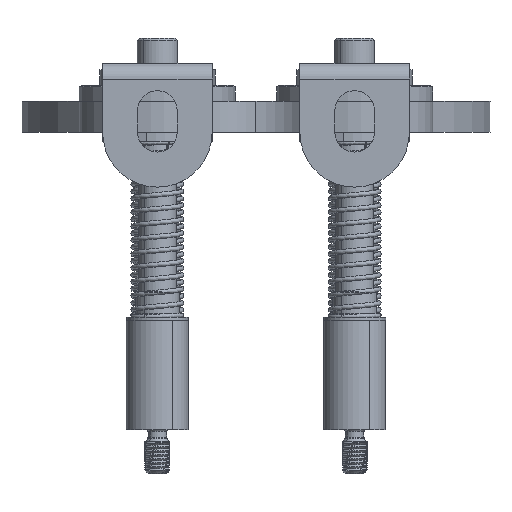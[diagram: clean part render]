
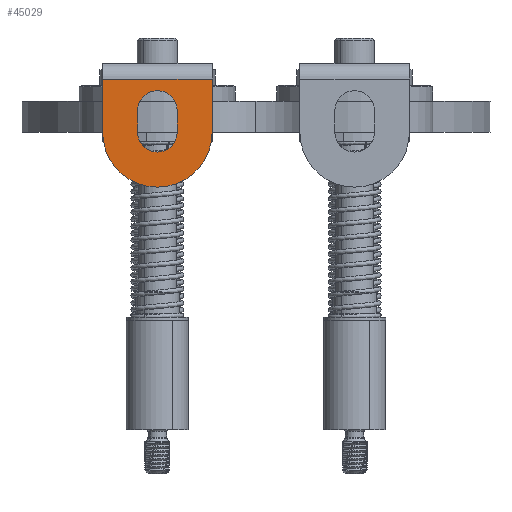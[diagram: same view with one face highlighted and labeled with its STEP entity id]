
A CAD part, left-side view. The second image highlights one B-rep face of the part: STEP entity #45029.
In plain terms, the highlighted planar face has unit normal (-1, 0, 0).
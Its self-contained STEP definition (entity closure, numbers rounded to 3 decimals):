
#494 = CARTESIAN_POINT ( 'NONE',  ( -201.5, 31.5, 0. ) ) ;
#1666 = VERTEX_POINT ( 'NONE', #2592 ) ;
#1729 = LINE ( 'NONE', #5709, #42362 ) ;
#1927 = EDGE_CURVE ( 'NONE', #1666, #47768, #32206, .T. ) ;
#2227 = VECTOR ( 'NONE', #23997, 1000. ) ;
#2592 = CARTESIAN_POINT ( 'NONE',  ( -201.5, 37.8, 7. ) ) ;
#2735 = EDGE_CURVE ( 'NONE', #26221, #22869, #48619, .T. ) ;
#3220 = ORIENTED_EDGE ( 'NONE', *, *, #27490, .T. ) ;
#4180 = CARTESIAN_POINT ( 'NONE',  ( -201.5, 25.2, 7. ) ) ;
#4837 = ORIENTED_EDGE ( 'NONE', *, *, #1927, .F. ) ;
#5352 = ORIENTED_EDGE ( 'NONE', *, *, #22004, .F. ) ;
#5628 = AXIS2_PLACEMENT_3D ( 'NONE', #24426, #40837, #20459 ) ;
#5709 = CARTESIAN_POINT ( 'NONE',  ( -201.5, 49., 0. ) ) ;
#8026 = FACE_BOUND ( 'NONE', #22606, .T. ) ;
#8292 = PLANE ( 'NONE',  #5628 ) ;
#8324 = DIRECTION ( 'NONE',  ( 0., 0., 1. ) ) ;
#8334 = CARTESIAN_POINT ( 'NONE',  ( -201.5, 31.5, 13.3 ) ) ;
#9412 = DIRECTION ( 'NONE',  ( -1., 0., 0. ) ) ;
#11156 = CARTESIAN_POINT ( 'NONE',  ( -201.5, 14., 17. ) ) ;
#11308 = CARTESIAN_POINT ( 'NONE',  ( -201.5, 37.8, 7. ) ) ;
#11862 = DIRECTION ( 'NONE',  ( 0., 0., 1. ) ) ;
#11969 = DIRECTION ( 'NONE',  ( -1., 0., 0. ) ) ;
#13902 = DIRECTION ( 'NONE',  ( 0., 0., 1. ) ) ;
#14521 = VECTOR ( 'NONE', #17284, 1000. ) ;
#14551 = VECTOR ( 'NONE', #31219, 1000. ) ;
#16562 = CARTESIAN_POINT ( 'NONE',  ( -201.5, 37.8, 0. ) ) ;
#16601 = CARTESIAN_POINT ( 'NONE',  ( -201.5, 31.5, 7. ) ) ;
#16851 = CARTESIAN_POINT ( 'NONE',  ( -201.5, 49., 0. ) ) ;
#17284 = DIRECTION ( 'NONE',  ( 0., 1., 0. ) ) ;
#19639 = DIRECTION ( 'NONE',  ( 0., 0., 1. ) ) ;
#19718 = DIRECTION ( 'NONE',  ( 0., 0., 1. ) ) ;
#20020 = VERTEX_POINT ( 'NONE', #8334 ) ;
#20459 = DIRECTION ( 'NONE',  ( 0., 0., 1. ) ) ;
#21870 = EDGE_CURVE ( 'NONE', #22869, #32337, #40686, .T. ) ;
#22004 = EDGE_CURVE ( 'NONE', #20020, #1666, #33955, .T. ) ;
#22392 = AXIS2_PLACEMENT_3D ( 'NONE', #48210, #11969, #19639 ) ;
#22606 = EDGE_LOOP ( 'NONE', ( #40481, #46427, #42098, #4837, #5352 ) ) ;
#22869 = VERTEX_POINT ( 'NONE', #32158 ) ;
#22952 = EDGE_CURVE ( 'NONE', #30647, #42333, #24748, .T. ) ;
#23997 = DIRECTION ( 'NONE',  ( 0., 0., -1. ) ) ;
#24049 = CIRCLE ( 'NONE', #22392, 6.3 ) ;
#24426 = CARTESIAN_POINT ( 'NONE',  ( -201.5, 31.5, 0. ) ) ;
#24748 = LINE ( 'NONE', #44599, #26415 ) ;
#25507 = DIRECTION ( 'NONE',  ( -1., 0., 0. ) ) ;
#26221 = VERTEX_POINT ( 'NONE', #35230 ) ;
#26415 = VECTOR ( 'NONE', #19718, 1000. ) ;
#27490 = EDGE_CURVE ( 'NONE', #32337, #49974, #45079, .T. ) ;
#27553 = AXIS2_PLACEMENT_3D ( 'NONE', #494, #27738, #11862 ) ;
#27738 = DIRECTION ( 'NONE',  ( -1., 0., 0. ) ) ;
#28399 = CIRCLE ( 'NONE', #27553, 17.5 ) ;
#28512 = ORIENTED_EDGE ( 'NONE', *, *, #2735, .T. ) ;
#28933 = CARTESIAN_POINT ( 'NONE',  ( -201.5, 31.5, 17. ) ) ;
#29623 = CIRCLE ( 'NONE', #51601, 6.3 ) ;
#30104 = CARTESIAN_POINT ( 'NONE',  ( -201.5, 49., 17. ) ) ;
#30647 = VERTEX_POINT ( 'NONE', #41275 ) ;
#31219 = DIRECTION ( 'NONE',  ( 0., 0., 1. ) ) ;
#31422 = AXIS2_PLACEMENT_3D ( 'NONE', #16601, #32737, #36963 ) ;
#32158 = CARTESIAN_POINT ( 'NONE',  ( -201.5, 14., 0. ) ) ;
#32206 = LINE ( 'NONE', #11308, #2227 ) ;
#32337 = VERTEX_POINT ( 'NONE', #11156 ) ;
#32737 = DIRECTION ( 'NONE',  ( -1., 0., 0. ) ) ;
#33389 = AXIS2_PLACEMENT_3D ( 'NONE', #44577, #25507, #8324 ) ;
#33955 = CIRCLE ( 'NONE', #31422, 6.3 ) ;
#35230 = CARTESIAN_POINT ( 'NONE',  ( -201.5, 31.5, -17.5 ) ) ;
#36963 = DIRECTION ( 'NONE',  ( 0., 0., 1. ) ) ;
#40038 = ORIENTED_EDGE ( 'NONE', *, *, #21870, .T. ) ;
#40159 = CARTESIAN_POINT ( 'NONE',  ( -201.5, 14., 20. ) ) ;
#40251 = EDGE_CURVE ( 'NONE', #47768, #30647, #24049, .T. ) ;
#40481 = ORIENTED_EDGE ( 'NONE', *, *, #50725, .F. ) ;
#40686 = LINE ( 'NONE', #40159, #14551 ) ;
#40809 = EDGE_LOOP ( 'NONE', ( #40038, #3220, #48916, #41990, #28512 ) ) ;
#40837 = DIRECTION ( 'NONE',  ( -1., 0., 0. ) ) ;
#41275 = CARTESIAN_POINT ( 'NONE',  ( -201.5, 25.2, 0. ) ) ;
#41990 = ORIENTED_EDGE ( 'NONE', *, *, #43884, .T. ) ;
#42098 = ORIENTED_EDGE ( 'NONE', *, *, #40251, .F. ) ;
#42333 = VERTEX_POINT ( 'NONE', #4180 ) ;
#42362 = VECTOR ( 'NONE', #49889, 1000. ) ;
#43884 = EDGE_CURVE ( 'NONE', #49090, #26221, #28399, .T. ) ;
#44546 = FACE_OUTER_BOUND ( 'NONE', #40809, .T. ) ;
#44577 = CARTESIAN_POINT ( 'NONE',  ( -201.5, 31.5, 0. ) ) ;
#44599 = CARTESIAN_POINT ( 'NONE',  ( -201.5, 25.2, 7. ) ) ;
#45029 = ADVANCED_FACE ( 'NONE', ( #8026, #44546 ), #8292, .T. ) ;
#45079 = LINE ( 'NONE', #28933, #14521 ) ;
#46427 = ORIENTED_EDGE ( 'NONE', *, *, #22952, .F. ) ;
#47768 = VERTEX_POINT ( 'NONE', #16562 ) ;
#48210 = CARTESIAN_POINT ( 'NONE',  ( -201.5, 31.5, 0. ) ) ;
#48619 = CIRCLE ( 'NONE', #33389, 17.5 ) ;
#48916 = ORIENTED_EDGE ( 'NONE', *, *, #52107, .T. ) ;
#49090 = VERTEX_POINT ( 'NONE', #16851 ) ;
#49364 = CARTESIAN_POINT ( 'NONE',  ( -201.5, 31.5, 7. ) ) ;
#49889 = DIRECTION ( 'NONE',  ( 0., 0., -1. ) ) ;
#49974 = VERTEX_POINT ( 'NONE', #30104 ) ;
#50725 = EDGE_CURVE ( 'NONE', #42333, #20020, #29623, .T. ) ;
#51601 = AXIS2_PLACEMENT_3D ( 'NONE', #49364, #9412, #13902 ) ;
#52107 = EDGE_CURVE ( 'NONE', #49974, #49090, #1729, .T. ) ;
